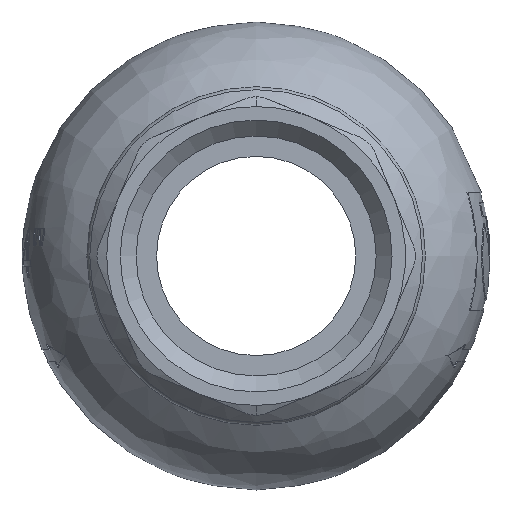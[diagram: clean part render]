
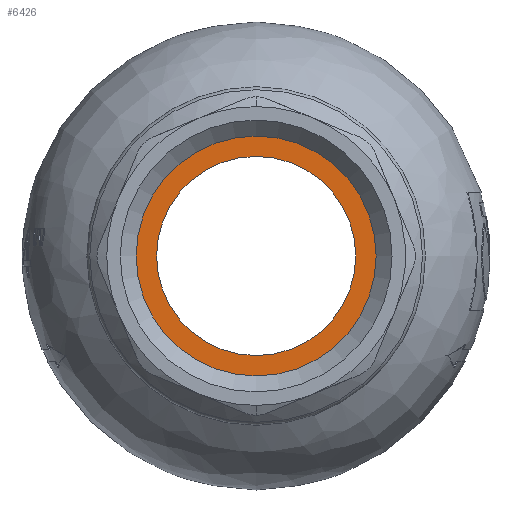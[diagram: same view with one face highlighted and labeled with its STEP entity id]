
A CAD part, left-side view. The second image highlights one B-rep face of the part: STEP entity #6426.
In plain terms, the highlighted planar face has unit normal (-1, 0, 0).
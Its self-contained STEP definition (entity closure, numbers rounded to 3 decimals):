
#6361=CARTESIAN_POINT('',(13.,12.05,-0.));
#6362=VERTEX_POINT('',#6361);
#6371=CARTESIAN_POINT('',(13.,-0.,-0.));
#6372=DIRECTION('',(1.,0.,-0.));
#6373=DIRECTION('',(-0.,1.,-0.));
#6374=AXIS2_PLACEMENT_3D('',#6371,#6372,#6373);
#6375=CIRCLE('',#6374,12.05);
#6376=EDGE_CURVE('',#6362,#6362,#6375,.T.);
#6398=CARTESIAN_POINT('',(13.,-0.,-0.));
#6399=DIRECTION('',(1.,0.,-0.));
#6400=DIRECTION('',(-0.,1.,-0.));
#6401=AXIS2_PLACEMENT_3D('',#6398,#6399,#6400);
#6402=PLANE('',#6401);
#6403=CARTESIAN_POINT('',(13.,10.,-0.));
#6404=VERTEX_POINT('',#6403);
#6405=CARTESIAN_POINT('',(13.,-10.,-0.));
#6406=VERTEX_POINT('',#6405);
#6407=CARTESIAN_POINT('',(13.,0.,-0.));
#6408=DIRECTION('',(1.,0.,-0.));
#6409=DIRECTION('',(-0.,1.,-0.));
#6410=AXIS2_PLACEMENT_3D('',#6407,#6408,#6409);
#6411=CIRCLE('',#6410,10.);
#6412=EDGE_CURVE('',#6404,#6406,#6411,.T.);
#6413=ORIENTED_EDGE('',*,*,#6412,.T.);
#6414=CARTESIAN_POINT('',(13.,0.,-0.));
#6415=DIRECTION('',(1.,0.,-0.));
#6416=DIRECTION('',(-0.,1.,-0.));
#6417=AXIS2_PLACEMENT_3D('',#6414,#6415,#6416);
#6418=CIRCLE('',#6417,10.);
#6419=EDGE_CURVE('',#6406,#6404,#6418,.T.);
#6420=ORIENTED_EDGE('',*,*,#6419,.T.);
#6421=EDGE_LOOP('',(#6413,#6420));
#6422=FACE_BOUND('',#6421,.T.);
#6423=ORIENTED_EDGE('',*,*,#6376,.F.);
#6424=EDGE_LOOP('',(#6423));
#6425=FACE_BOUND('',#6424,.T.);
#6426=ADVANCED_FACE('',(#6422,#6425),#6402,.F.);
